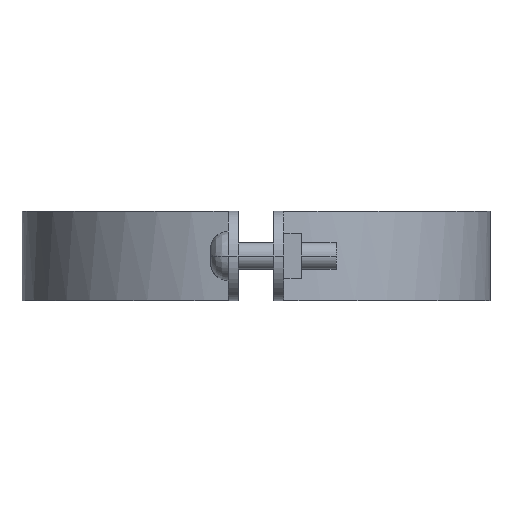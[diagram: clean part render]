
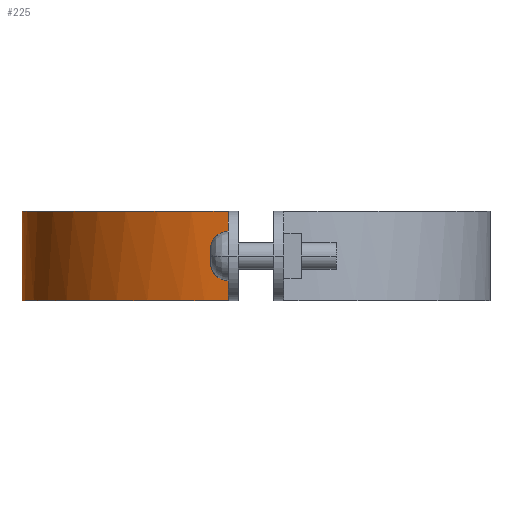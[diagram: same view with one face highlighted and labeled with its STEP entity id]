
A CAD part, left-side view. The second image highlights one B-rep face of the part: STEP entity #225.
In plain terms, the highlighted free-form (B-spline) face has degree [3, 1] with [4, 2] control points.
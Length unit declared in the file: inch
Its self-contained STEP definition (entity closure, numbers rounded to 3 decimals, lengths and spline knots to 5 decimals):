
#225=ADVANCED_FACE('',(#469),#470,.T.);
#469=FACE_OUTER_BOUND('',#1070,.T.);
#470=B_SPLINE_SURFACE_WITH_KNOTS('',3,1,((#1071,#1072),(#1073,#1074),(#1075,#1076),(#1077,#1078)),.UNSPECIFIED.,.F.,.F.,.F.,(4,4),(2,2),(0.0,1.0),(0.0,1.25),.UNSPECIFIED.);
#1070=EDGE_LOOP('',(#1631,#1632,#1633,#1634));
#1071=CARTESIAN_POINT('',(3.96305,6.37997,0.0));
#1072=CARTESIAN_POINT('',(3.96305,6.37997,1.25));
#1073=CARTESIAN_POINT('',(2.31154,6.37997,0.0));
#1074=CARTESIAN_POINT('',(2.31154,6.37997,1.25));
#1075=CARTESIAN_POINT('',(0.92094,5.14495,0.0));
#1076=CARTESIAN_POINT('',(0.92094,5.14495,1.25));
#1077=CARTESIAN_POINT('',(0.72589,3.50497,0.0));
#1078=CARTESIAN_POINT('',(0.72589,3.50497,1.25));
#1631=ORIENTED_EDGE('',*,*,#2106,.T.);
#1632=ORIENTED_EDGE('',*,*,#2145,.T.);
#1633=ORIENTED_EDGE('',*,*,#2051,.T.);
#1634=ORIENTED_EDGE('',*,*,#2146,.F.);
#2051=EDGE_CURVE('',#2363,#2360,#2364,.T.);
#2106=EDGE_CURVE('',#2447,#2456,#2458,.T.);
#2145=EDGE_CURVE('',#2456,#2363,#2512,.T.);
#2146=EDGE_CURVE('',#2447,#2360,#2513,.T.);
#2360=VERTEX_POINT('',#2883);
#2363=VERTEX_POINT('',#2887);
#2364=B_SPLINE_CURVE_WITH_KNOTS('',3,(#2888,#2889,#2890,#2891),.UNSPECIFIED.,.F.,.F.,(4,4),(-1.0,-0.0),.UNSPECIFIED.);
#2447=VERTEX_POINT('',#3020);
#2456=VERTEX_POINT('',#3036);
#2458=B_SPLINE_CURVE_WITH_KNOTS('',3,(#3039,#3040,#3041,#3042),.UNSPECIFIED.,.F.,.F.,(4,4),(0.0,1.0),.UNSPECIFIED.);
#2512=LINE('',#3158,#3159);
#2513=LINE('',#3160,#3161);
#2883=CARTESIAN_POINT('',(3.96305,6.37997,1.24992));
#2887=CARTESIAN_POINT('',(0.72589,3.50497,1.24992));
#2888=CARTESIAN_POINT('',(0.72589,3.50497,1.24992));
#2889=CARTESIAN_POINT('',(0.92094,5.14495,1.24992));
#2890=CARTESIAN_POINT('',(2.31154,6.37997,1.24992));
#2891=CARTESIAN_POINT('',(3.96305,6.37997,1.24992));
#3020=CARTESIAN_POINT('',(3.96305,6.37997,0.00011));
#3036=CARTESIAN_POINT('',(0.72589,3.50497,0.00011));
#3039=CARTESIAN_POINT('',(3.96305,6.37997,0.00011));
#3040=CARTESIAN_POINT('',(2.31154,6.37997,0.00011));
#3041=CARTESIAN_POINT('',(0.92094,5.14495,0.00011));
#3042=CARTESIAN_POINT('',(0.72589,3.50497,0.00011));
#3158=CARTESIAN_POINT('',(0.72589,3.50497,0.0));
#3159=VECTOR('',#3461,1.0);
#3160=CARTESIAN_POINT('',(3.96305,6.37997,0.0));
#3161=VECTOR('',#3462,1.0);
#3461=DIRECTION('',(0.0,0.0,1.0));
#3462=DIRECTION('',(0.0,0.0,1.0));
